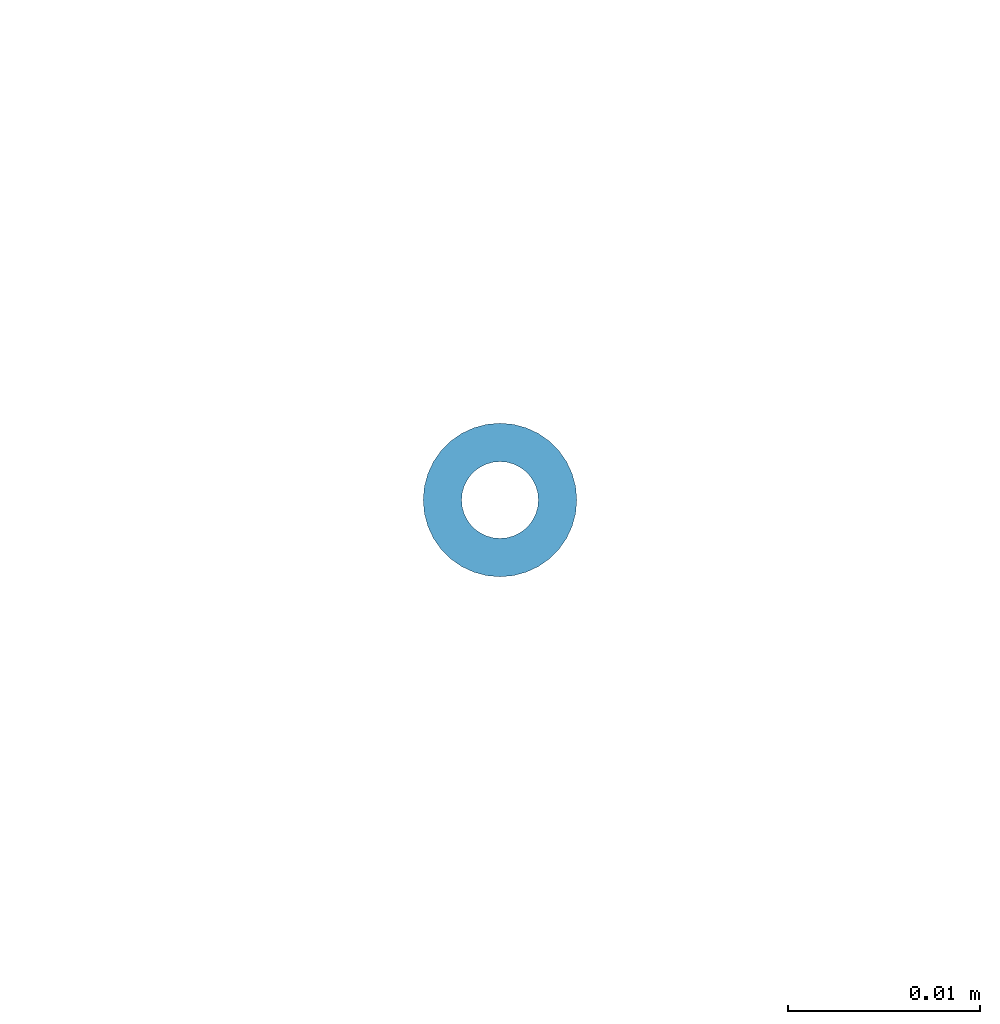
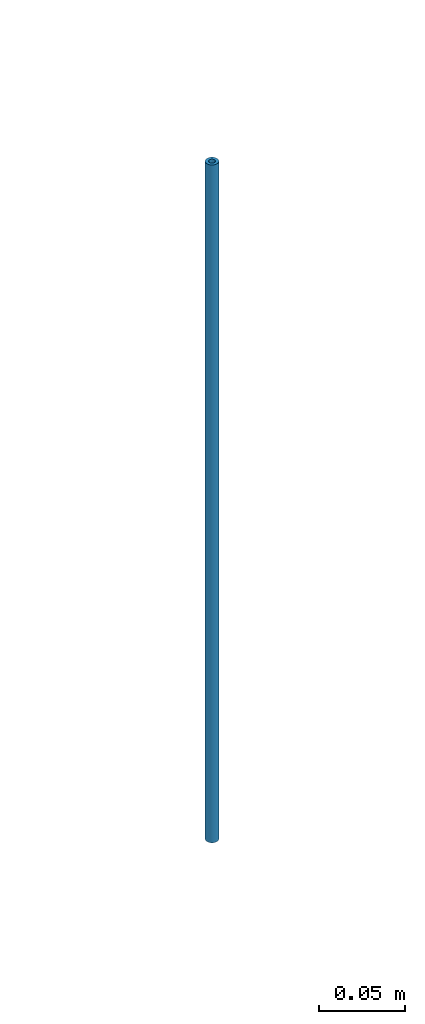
# One storey, part 3 of 23: 1 column.
"""IFC2X3 building model written with IfcOpenShell, lengths in millimetres."""

import ifcopenshell
import ifcopenshell.guid

model = None  # the IFC model being written
_history = None  # IfcOwnerHistory: only IFC2X3 demands one
_inside = {}  # id of a spatial element -> (the spatial element, [elements in it])
_under = {}  # id of a project, library or spatial element -> (it, [spatial elements below it])
_declared = {}  # id of a project -> (the project, [libraries it declares])
_typed = {}  # id of a type object -> (the type object, [elements of that type])
_made_of = {}  # id of a material, layer set ... -> (it, [elements and type objects made of it])


def new_model(schema):
    """Start an empty IFC model of exactly this schema.

    Asked for "IFC4X3", IfcOpenShell would pick the latest addendum, in which some entities
    have other attributes; the version numbers below select the first issue.
    IFC2X3 requires an IfcOwnerHistory on every rooted entity: one is made here for all.
    """
    global model, _history
    if schema == "IFC4X3":
        model = ifcopenshell.file(schema_version=(4, 3, 0, 0))
    else:
        model = ifcopenshell.file(schema=schema)
    _inside.clear()
    _under.clear()
    _declared.clear()
    _typed.clear()
    _made_of.clear()
    _history = None
    if model.schema == "IFC2X3":
        org = make("IfcOrganization", Name="unknown")
        user = make(
            "IfcPersonAndOrganization",
            ThePerson=make("IfcPerson", FamilyName="unknown"),
            TheOrganization=org,
        )
        app = make(
            "IfcApplication",
            ApplicationDeveloper=org,
            Version="unknown",
            ApplicationFullName="unknown",
            ApplicationIdentifier="unknown",
        )
        _history = make(
            "IfcOwnerHistory",
            OwningUser=user,
            OwningApplication=app,
            ChangeAction="ADDED",
            CreationDate=0,
        )
    return model


def make(cls, **values):
    """One entity of the class cls with the attributes given. An attribute that is None is left unset."""
    return model.create_entity(
        cls, **{name: value for name, value in values.items() if value is not None}
    )


def entity(cls, *values):
    """Any entity or typed value of the class cls, its attributes in the order of the schema. None: left unset."""
    e = model.create_entity(cls)
    for i, value in enumerate(values):
        if value is not None:
            e[i] = value
    return e


def rooted(cls, **values):
    """An entity with a GlobalId (a new one), such as an element, a storey or a relation."""
    return make(cls, GlobalId=ifcopenshell.guid.new(), OwnerHistory=_history, **values)


def si_unit(unit_type, name, prefix=None):
    """IfcSIUnit, for example si_unit("LENGTHUNIT", "METRE", prefix="MILLI")."""
    return make("IfcSIUnit", UnitType=unit_type, Prefix=prefix, Name=name)


def converted_unit(unit_type, name, factor, base, dimensions=None, offset=None):
    """IfcConversionBasedUnit, such as the inch: factor (a typed value) times the base unit."""
    return make(
        "IfcConversionBasedUnit"
        if offset is None
        else "IfcConversionBasedUnitWithOffset",
        ConversionOffset=offset,
        Dimensions=None
        if dimensions is None
        else entity("IfcDimensionalExponents", *dimensions),
        UnitType=unit_type,
        Name=name,
        ConversionFactor=make(
            "IfcMeasureWithUnit", ValueComponent=factor, UnitComponent=base
        ),
    )


def derived_unit(unit_type, elements):
    """IfcDerivedUnit: a product of units, each with its exponent."""
    return make(
        "IfcDerivedUnit",
        Elements=[
            make("IfcDerivedUnitElement", Unit=unit, Exponent=power)
            for unit, power in elements
        ],
        UnitType=unit_type,
    )


def assignment(units):
    """IfcUnitAssignment: the units of a project."""
    return None if units is None else make("IfcUnitAssignment", Units=units)


def point(xyz):
    """IfcCartesianPoint."""
    return None if xyz is None else make("IfcCartesianPoint", Coordinates=xyz)


def direction(xyz):
    """IfcDirection."""
    return None if xyz is None else make("IfcDirection", DirectionRatios=xyz)


def frame(location, z_axis=None, x_axis=None):
    """IfcAxis2Placement3D, a coordinate frame: its origin and axes. An axis left out is left unset."""
    return make(
        "IfcAxis2Placement3D",
        Location=point(location),
        Axis=direction(z_axis),
        RefDirection=direction(x_axis),
    )


def origin_with_axes():
    """The frame at (0, 0, 0) with the z axis (0, 0, 1) and the x axis (1, 0, 0) written out."""
    return frame((0.0, 0.0, 0.0), z_axis=(0.0, 0.0, 1.0), x_axis=(1.0, 0.0, 0.0))


def place(relative_to, where):
    """IfcLocalPlacement: puts the frame where relative to a parent placement (None: the world)."""
    return make(
        "IfcLocalPlacement", PlacementRelTo=relative_to, RelativePlacement=where
    )


def context(
    kind, dimensions, precision=None, world=None, true_north=None, identifier=None
):
    """IfcGeometricRepresentationContext, for example the 3D "Model" context."""
    return make(
        "IfcGeometricRepresentationContext",
        ContextIdentifier=identifier,
        ContextType=kind,
        CoordinateSpaceDimension=dimensions,
        Precision=precision,
        WorldCoordinateSystem=world,
        TrueNorth=true_north,
    )


def subcontext(parent, identifier, kind, view, scale=None):
    """IfcGeometricRepresentationSubContext, for example "Body" below "Model"."""
    return make(
        "IfcGeometricRepresentationSubContext",
        ContextIdentifier=identifier,
        ContextType=kind,
        ParentContext=parent,
        TargetScale=scale,
        TargetView=view,
    )


def project(units=None, contexts=None):
    """IfcProject with its units and contexts."""
    return rooted(
        "IfcProject",
        Name="project",
        RepresentationContexts=contexts,
        UnitsInContext=assignment(units),
    )


def spatial(cls, under=None, at=None, **own):
    """A site, building, storey or space (cls), placed at a placement, below another one or the project."""
    s = rooted(cls, ObjectPlacement=at, **own)
    if under is not None:
        _under.setdefault(under.id(), (under, []))[1].append(s)
    return s


def faces_of(points, faces, orient=None, outer=None):
    """IfcFace entities. A face is a list of loops; a loop is a list of indices into points, from 0.

    orient and outer hold one flag for each loop. By default every Orientation is true, the
    first loop of a face is its IfcFaceOuterBound and the others are IfcFaceBound.
    """
    made = []
    for i, loops in enumerate(faces):
        bounds = []
        for j, loop in enumerate(loops):
            is_outer = j == 0 if outer is None else outer[i][j]
            bounds.append(
                make(
                    "IfcFaceOuterBound" if is_outer else "IfcFaceBound",
                    Bound=make("IfcPolyLoop", Polygon=[points[k] for k in loop]),
                    Orientation=True if orient is None else orient[i][j],
                )
            )
        made.append(make("IfcFace", Bounds=bounds))
    return made


def faceted_brep(points, faces, orient=None, outer=None, voids=None):
    """IfcFacetedBrep: a solid bounded by flat faces; with voids (closed shells), ...WithVoids."""
    shared = [point(p) for p in points]
    hull = make("IfcClosedShell", CfsFaces=faces_of(shared, faces, orient, outer))
    if voids is None:
        return make("IfcFacetedBrep", Outer=hull)
    return make(
        "IfcFacetedBrepWithVoids",
        Outer=hull,
        Voids=[
            make(cls, CfsFaces=faces_of(shared, fs, o, b)) for cls, fs, o, b in voids
        ],
    )


def shape(context_of_items, identifier, shape_type, items):
    """IfcShapeRepresentation: the items that make up one representation, for example the "Body"."""
    return make(
        "IfcShapeRepresentation",
        ContextOfItems=context_of_items,
        RepresentationIdentifier=identifier,
        RepresentationType=shape_type,
        Items=items,
    )


def material(Name=None, Category=None):
    """IfcMaterial."""
    return make("IfcMaterial", Name=Name, Category=Category)


def made_of(thing, what):
    """Note that an element or type object is made of a material, layer set ...; save() writes the relation."""
    if what is not None:
        _made_of.setdefault(what.id(), (what, []))[1].append(thing)
    return thing


def type_object(cls, material=None, **own):
    """A type object (cls), such as IfcWallType, which elements share."""
    return made_of(rooted(cls, **own), material)


def element(
    cls,
    number,
    at=None,
    inside=None,
    cuts=None,
    type_object=None,
    material=None,
    context=None,
    identifier="Body",
    shape_type=None,
    held_by="IfcProductDefinitionShape",
    body=None,
    shapes=None,
    **own,
):
    """One element of the class cls, such as IfcWall. Its Tag is "e" and its number.

    at: its placement. inside: the storey or other place that contains it. cuts: it is an
    opening in that element (IfcRelVoidsElement). A single representation is given by context,
    identifier, shape_type and body (its items); several are given by shapes. held_by: the class
    of the entity that holds the representations. save() writes the other relations.
    """
    e = rooted(cls, Tag="e%d" % number, ObjectPlacement=at, **own)
    if body is not None:
        shapes = [shape(context, identifier, shape_type, body)]
    if shapes is not None:
        e.Representation = make(held_by, Representations=shapes)
    if inside is not None:
        _inside.setdefault(inside.id(), (inside, []))[1].append(e)
    if cuts is not None:
        rooted(
            "IfcRelVoidsElement", RelatingBuildingElement=cuts, RelatedOpeningElement=e
        )
    if type_object is not None:
        _typed.setdefault(type_object.id(), (type_object, []))[1].append(e)
    return made_of(e, material)


def aggregate(whole, parts):
    """IfcRelAggregates: a whole, such as a stair, and the parts it consists of."""
    return rooted("IfcRelAggregates", RelatingObject=whole, RelatedObjects=parts)


def save(model, path):
    """Write the relations noted so far, then the file.

    IfcRelAggregates (storeys below a building ...), IfcRelContainedInSpatialStructure (elements
    in a storey), IfcRelDefinesByType, IfcRelAssociatesMaterial and IfcRelDeclares: one each for
    every whole, place, type object, material and project.
    """
    for whole, parts in _under.values():
        aggregate(whole, parts)
    for where, things in _inside.values():
        rooted(
            "IfcRelContainedInSpatialStructure",
            RelatedElements=things,
            RelatingStructure=where,
        )
    for kind, things in _typed.values():
        rooted("IfcRelDefinesByType", RelatedObjects=things, RelatingType=kind)
    for what, things in _made_of.values():
        rooted("IfcRelAssociatesMaterial", RelatedObjects=things, RelatingMaterial=what)
    for by, libraries in _declared.values():
        rooted("IfcRelDeclares", RelatingContext=by, RelatedDefinitions=libraries)
    model.write(path)


model = new_model("IFC2X3")

# Units and contexts
model_context = context("Model", 3, precision=0.01, world=frame((0.0, 4.29681676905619e-09, 0.0)), true_north=direction((4.01073788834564e-13, 1.0)))
plan_context = context("Plan", 3, precision=0.01, world=frame((0.0, 4.29681676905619e-09, 0.0)), true_north=direction((4.01073788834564e-13, 1.0)))
body_context = subcontext(model_context, "Body", "Model", "MODEL_VIEW")
ifc_project = project(units=[converted_unit("PLANEANGLEUNIT", "DEGREE", entity("IfcPositiveLengthMeasure", 0.0174532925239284), si_unit("PLANEANGLEUNIT", "RADIAN"), dimensions=[0, 0, 0, 0, 0, 0, 0]), si_unit("AREAUNIT", "SQUARE_METRE"), si_unit("LENGTHUNIT", "METRE", prefix="MILLI"), si_unit("MASSUNIT", "GRAM", prefix="KILO"), si_unit("POWERUNIT", "WATT"), si_unit("PRESSUREUNIT", "PASCAL", prefix="KILO"), si_unit("FORCEUNIT", "NEWTON", prefix="KILO"), si_unit("ELECTRICVOLTAGEUNIT", "VOLT"), si_unit("ELECTRICCURRENTUNIT", "AMPERE"), si_unit("THERMODYNAMICTEMPERATUREUNIT", "DEGREE_CELSIUS"), si_unit("TIMEUNIT", "SECOND"), si_unit("VOLUMEUNIT", "CUBIC_METRE"), derived_unit("LINEARVELOCITYUNIT", [(si_unit("LENGTHUNIT", "METRE"), 1), (si_unit("TIMEUNIT", "SECOND"), -1)]), derived_unit("VOLUMETRICFLOWRATEUNIT", [(si_unit("VOLUMEUNIT", "CUBIC_METRE"), 1), (si_unit("TIMEUNIT", "SECOND"), -1)]), derived_unit("THERMALTRANSMITTANCEUNIT", [(si_unit("POWERUNIT", "WATT"), 1), (si_unit("THERMODYNAMICTEMPERATUREUNIT", "KELVIN"), -1), (si_unit("AREAUNIT", "SQUARE_METRE"), -1)]), derived_unit("SOUNDPRESSUREUNIT", [(si_unit("PRESSUREUNIT", "PASCAL"), 1)])], contexts=[model_context, plan_context])

# Site, building, storey
site_placement = place(None, origin_with_axes())
site = spatial("IfcSite", under=ifc_project, at=site_placement, Name="ENGM", CompositionType="ELEMENT")
building_placement = place(site_placement, origin_with_axes())
building = spatial("IfcBuilding", under=site, at=building_placement, Name="TI", CompositionType="ELEMENT")
storey_placement = place(building_placement, frame((0.0, 0.0, 213700.0), z_axis=(0.0, 0.0, 1.0), x_axis=(1.0, 0.0, 0.0)))
storey = spatial("IfcBuildingStorey", under=building, at=storey_placement, Name="Nivå G - 2,0m", CompositionType="ELEMENT", Elevation=213700.0)

# Column
ifc_material = material(Name="_NSW Stål")
column_type = type_object("IfcColumnType", Name="A241 - GRID-oppheng:A241 - GRID-oppheng - ø10 mm", PredefinedType="COLUMN", material=ifc_material)
column_placement = place(storey_placement, frame((585000.000000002, 573500.0, -213700.0), z_axis=(0.0, 0.0, 1.0), x_axis=(1.0, 0.0, 0.0)))
element("IfcColumn", 1, at=column_placement, inside=storey, type_object=column_type, Name="A241 - GRID-oppheng:A241 - GRID-oppheng - ø10 mm", ObjectType="A241 - GRID-oppheng:A241 - GRID-oppheng - ø10 mm", context=body_context, shape_type="Brep", body=[
    faceted_brep([(2.00000000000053, 2.95521980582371e-15, 214400.0), (1.96961550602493, -0.347296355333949, 214400.0), (1.96961550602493, -0.347296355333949, 213920.0), (2.00000000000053, 2.95521980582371e-15, 213920.0), (1.87938524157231, -0.684040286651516, 214400.0), (1.87938524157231, -0.684040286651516, 213920.0), (1.73205080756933, -1.00000000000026, 214400.0), (1.73205080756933, -1.00000000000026, 213920.0), (1.53208888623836, -1.28557521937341, 214400.0), (1.53208888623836, -1.28557521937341, 213920.0), (1.28557521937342, -1.53208888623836, 214400.0), (1.28557521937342, -1.53208888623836, 213920.0), (1.00000000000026, -1.73205080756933, 214400.0), (1.00000000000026, -1.73205080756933, 213920.0), (0.684040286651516, -1.87938524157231, 214400.0), (0.684040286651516, -1.87938524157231, 213920.0), (0.347296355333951, -1.96961550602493, 214400.0), (0.347296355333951, -1.96961550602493, 213920.0), (-2.38954857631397e-16, -2.00000000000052, 214400.0), (-2.38954857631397e-16, -2.00000000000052, 213920.0), (-0.347296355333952, -1.96961550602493, 214400.0), (-0.347296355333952, -1.96961550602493, 213920.0), (-0.684040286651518, -1.87938524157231, 214400.0), (-0.684040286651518, -1.87938524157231, 213920.0), (-1.00000000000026, -1.73205080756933, 214400.0), (-1.00000000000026, -1.73205080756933, 213920.0), (-1.28557521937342, -1.53208888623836, 214400.0), (-1.28557521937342, -1.53208888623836, 213920.0), (-1.53208888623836, -1.28557521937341, 214400.0), (-1.53208888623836, -1.28557521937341, 213920.0), (-1.73205080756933, -1.00000000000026, 214400.0), (-1.73205080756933, -1.00000000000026, 213920.0), (-1.87938524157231, -0.684040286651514, 214400.0), (-1.87938524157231, -0.684040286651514, 213920.0), (-1.96961550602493, -0.347296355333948, 214400.0), (-1.96961550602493, -0.347296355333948, 213920.0), (-2.00000000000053, 3.20014916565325e-15, 214400.0), (-2.00000000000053, 3.20014916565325e-15, 213920.0), (-1.96961550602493, 0.347296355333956, 214400.0), (-1.96961550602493, 0.347296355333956, 213920.0), (-1.87938524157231, 0.68404028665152, 214400.0), (-1.87938524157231, 0.68404028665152, 213920.0), (-1.73205080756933, 1.00000000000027, 214400.0), (-1.73205080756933, 1.00000000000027, 213920.0), (-1.53208888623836, 1.28557521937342, 214400.0), (-1.53208888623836, 1.28557521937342, 213920.0), (-1.28557521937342, 1.53208888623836, 214400.0), (-1.28557521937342, 1.53208888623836, 213920.0), (-1.00000000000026, 1.73205080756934, 214400.0), (-1.00000000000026, 1.73205080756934, 213920.0), (-0.684040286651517, 1.87938524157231, 214400.0), (-0.684040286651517, 1.87938524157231, 213920.0), (-0.347296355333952, 1.96961550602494, 214400.0), (-0.347296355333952, 1.96961550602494, 213920.0), (2.50903862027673e-16, 2.00000000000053, 214400.0), (2.50903862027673e-16, 2.00000000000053, 213920.0), (0.347296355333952, 1.96961550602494, 214400.0), (0.347296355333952, 1.96961550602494, 213920.0), (0.684040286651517, 1.87938524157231, 214400.0), (0.684040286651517, 1.87938524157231, 213920.0), (1.00000000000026, 1.73205080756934, 214400.0), (1.00000000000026, 1.73205080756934, 213920.0), (1.28557521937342, 1.53208888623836, 214400.0), (1.28557521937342, 1.53208888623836, 213920.0), (1.53208888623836, 1.28557521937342, 214400.0), (1.53208888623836, 1.28557521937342, 213920.0), (1.73205080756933, 1.00000000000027, 214400.0), (1.73205080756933, 1.00000000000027, 213920.0), (1.87938524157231, 0.68404028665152, 214400.0), (1.87938524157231, 0.68404028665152, 213920.0), (1.96961550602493, 0.347296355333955, 214400.0), (1.96961550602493, 0.347296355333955, 213920.0), (3.93923101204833, -0.694592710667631, 214400.0), (3.99999999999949, 2.95521980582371e-15, 214400.0), (3.99999999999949, 2.95521980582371e-15, 213920.0), (3.93923101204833, -0.694592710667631, 213920.0), (3.93923101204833, 0.694592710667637, 214400.0), (3.93923101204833, 0.694592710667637, 213920.0), (3.75877048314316, 1.3680805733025, 214400.0), (3.75877048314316, 1.3680805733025, 213920.0), (3.46410161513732, 1.99999999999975, 214400.0), (3.46410161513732, 1.99999999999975, 213920.0), (3.06417777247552, 2.57115043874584, 214400.0), (3.06417777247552, 2.57115043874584, 213920.0), (2.57115043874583, 3.06417777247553, 214400.0), (2.57115043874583, 3.06417777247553, 213920.0), (1.99999999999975, 3.46410161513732, 214400.0), (1.99999999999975, 3.46410161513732, 213920.0), (1.3680805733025, 3.75877048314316, 214400.0), (1.3680805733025, 3.75877048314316, 213920.0), (0.694592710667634, 3.93923101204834, 214400.0), (0.694592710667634, 3.93923101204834, 213920.0), (3.73368541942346e-16, 3.9999999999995, 214400.0), (3.73368541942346e-16, 3.9999999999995, 213920.0), (-0.694592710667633, 3.93923101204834, 214400.0), (-0.694592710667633, 3.93923101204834, 213920.0), (-1.3680805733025, 3.75877048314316, 214400.0), (-1.3680805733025, 3.75877048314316, 213920.0), (-1.99999999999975, 3.46410161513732, 214400.0), (-1.99999999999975, 3.46410161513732, 213920.0), (-2.57115043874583, 3.06417777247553, 214400.0), (-2.57115043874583, 3.06417777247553, 213920.0), (-3.06417777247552, 2.57115043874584, 214400.0), (-3.06417777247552, 2.57115043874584, 213920.0), (-3.46410161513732, 1.99999999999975, 214400.0), (-3.46410161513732, 1.99999999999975, 213920.0), (-3.75877048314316, 1.36808057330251, 214400.0), (-3.75877048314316, 1.36808057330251, 213920.0), (-3.93923101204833, 0.694592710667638, 214400.0), (-3.93923101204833, 0.694592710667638, 213920.0), (-3.99999999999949, 3.44507852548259e-15, 214400.0), (-3.99999999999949, 3.44507852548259e-15, 213920.0), (-3.93923101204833, -0.694592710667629, 214400.0), (-3.93923101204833, -0.694592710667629, 213920.0), (-3.75877048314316, -1.3680805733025, 214400.0), (-3.75877048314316, -1.3680805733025, 213920.0), (-3.46410161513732, -1.99999999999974, 214400.0), (-3.46410161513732, -1.99999999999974, 213920.0), (-3.06417777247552, -2.57115043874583, 214400.0), (-3.06417777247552, -2.57115043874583, 213920.0), (-2.57115043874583, -3.06417777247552, 214400.0), (-2.57115043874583, -3.06417777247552, 213920.0), (-1.99999999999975, -3.46410161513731, 214400.0), (-1.99999999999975, -3.46410161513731, 213920.0), (-1.3680805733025, -3.75877048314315, 214400.0), (-1.3680805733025, -3.75877048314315, 213920.0), (-0.694592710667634, -3.93923101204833, 214400.0), (-0.694592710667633, -3.93923101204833, 213920.0), (-6.06348897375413e-16, -3.99999999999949, 214400.0), (-6.06348897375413e-16, -3.99999999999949, 213920.0), (0.694592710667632, -3.93923101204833, 214400.0), (0.694592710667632, -3.93923101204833, 213920.0), (1.3680805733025, -3.75877048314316, 214400.0), (1.3680805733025, -3.75877048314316, 213920.0), (1.99999999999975, -3.46410161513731, 214400.0), (1.99999999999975, -3.46410161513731, 213920.0), (2.57115043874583, -3.06417777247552, 214400.0), (2.57115043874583, -3.06417777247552, 213920.0), (3.06417777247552, -2.57115043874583, 214400.0), (3.06417777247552, -2.57115043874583, 213920.0), (3.46410161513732, -1.99999999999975, 214400.0), (3.46410161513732, -1.99999999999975, 213920.0), (3.75877048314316, -1.3680805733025, 214400.0), (3.75877048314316, -1.3680805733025, 213920.0)], [[[0, 1, 2, 3]], [[1, 4, 5, 2]], [[4, 6, 7, 5]], [[6, 8, 9, 7]], [[8, 10, 11, 9]], [[10, 12, 13, 11]], [[12, 14, 15, 13]], [[14, 16, 17, 15]], [[16, 18, 19, 17]], [[18, 20, 21, 19]], [[20, 22, 23, 21]], [[22, 24, 25, 23]], [[24, 26, 27, 25]], [[26, 28, 29, 27]], [[28, 30, 31, 29]], [[30, 32, 33, 31]], [[32, 34, 35, 33]], [[34, 36, 37, 35]], [[36, 38, 39, 37]], [[38, 40, 41, 39]], [[40, 42, 43, 41]], [[42, 44, 45, 43]], [[44, 46, 47, 45]], [[46, 48, 49, 47]], [[48, 50, 51, 49]], [[50, 52, 53, 51]], [[52, 54, 55, 53]], [[54, 56, 57, 55]], [[56, 58, 59, 57]], [[58, 60, 61, 59]], [[60, 62, 63, 61]], [[62, 64, 65, 63]], [[64, 66, 67, 65]], [[66, 68, 69, 67]], [[68, 70, 71, 69]], [[70, 0, 3, 71]], [[72, 73, 74, 75]], [[73, 76, 77, 74]], [[76, 78, 79, 77]], [[78, 80, 81, 79]], [[80, 82, 83, 81]], [[82, 84, 85, 83]], [[84, 86, 87, 85]], [[86, 88, 89, 87]], [[88, 90, 91, 89]], [[90, 92, 93, 91]], [[92, 94, 95, 93]], [[94, 96, 97, 95]], [[96, 98, 99, 97]], [[98, 100, 101, 99]], [[100, 102, 103, 101]], [[102, 104, 105, 103]], [[104, 106, 107, 105]], [[106, 108, 109, 107]], [[108, 110, 111, 109]], [[110, 112, 113, 111]], [[112, 114, 115, 113]], [[114, 116, 117, 115]], [[116, 118, 119, 117]], [[118, 120, 121, 119]], [[120, 122, 123, 121]], [[122, 124, 125, 123]], [[124, 126, 127, 125]], [[126, 128, 129, 127]], [[128, 130, 131, 129]], [[130, 132, 133, 131]], [[132, 134, 135, 133]], [[134, 136, 137, 135]], [[136, 138, 139, 137]], [[138, 140, 141, 139]], [[140, 142, 143, 141]], [[142, 72, 75, 143]], [[75, 74, 77, 79, 81, 83, 85, 87, 89, 91, 93, 95, 97, 99, 101, 103, 105, 107, 109, 111, 113, 115, 117, 119, 121, 123, 125, 127, 129, 131, 133, 135, 137, 139, 141, 143], [3, 2, 5, 7, 9, 11, 13, 15, 17, 19, 21, 23, 25, 27, 29, 31, 33, 35, 37, 39, 41, 43, 45, 47, 49, 51, 53, 55, 57, 59, 61, 63, 65, 67, 69, 71]], [[142, 140, 138, 136, 134, 132, 130, 128, 126, 124, 122, 120, 118, 116, 114, 112, 110, 108, 106, 104, 102, 100, 98, 96, 94, 92, 90, 88, 86, 84, 82, 80, 78, 76, 73, 72], [70, 68, 66, 64, 62, 60, 58, 56, 54, 52, 50, 48, 46, 44, 42, 40, 38, 36, 34, 32, 30, 28, 26, 24, 22, 20, 18, 16, 14, 12, 10, 8, 6, 4, 1, 0]]], orient=[[False], [False], [False], [False], [False], [False], [False], [False], [False], [False], [False], [False], [False], [False], [False], [False], [False], [False], [False], [False], [False], [False], [False], [False], [False], [False], [False], [False], [False], [False], [False], [False], [False], [False], [False], [False], [False], [False], [False], [False], [False], [False], [False], [False], [False], [False], [False], [False], [False], [False], [False], [False], [False], [False], [False], [False], [False], [False], [False], [False], [False], [False], [False], [False], [False], [False], [False], [False], [False], [False], [False], [False], [False, False], [False, False]]),
])

save(model, "model.ifc")
